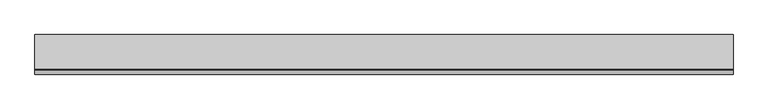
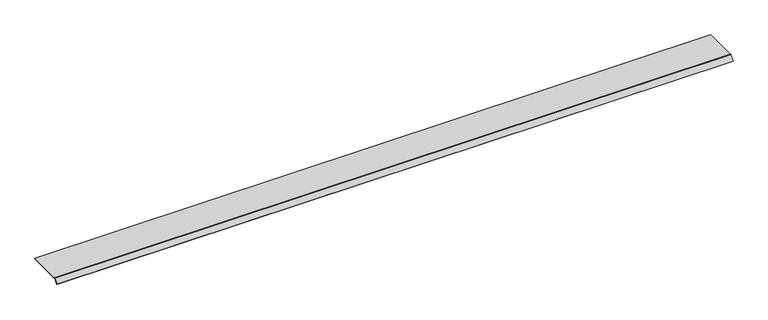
"""IFC4 building model written with IfcOpenShell, lengths in millimetres: proxy geometry, Electrical_Installation_Hager_Blank-Cover-800mm-Double-Sided-Extended-100-Height-40mm : Electrical_Installation_Hager_Blank-Cover-800mm-Double-Sided-Extended-100-Height-40mm."""

from ifc_helpers import new_model, si_unit, point, frame, frame_2d, origin, place, context, project, spatial, polyline, circle_curve, trimmed, segment, composite_curve, outline, extrude, source, transform, mapped, element, save


def electrical_fixtures_b801d70f(model_context):
    return source(origin(), model_context, "Body", "SweptSolid", [
        extrude(outline(composite_curve([segment(polyline([(201.470165, 25.5), (201.470165, 22.5), (-99.8229541, 22.5)]), True, "CONTINUOUS"), segment(trimmed(circle_curve(frame_2d((-99.8229541, 21.0725733)), 1.4274267), [point((-99.8229541, 22.5))], [point((-100.8322972, 22.0819164))], True, "CARTESIAN"), True, "CONTINUOUS"), segment(polyline([(-100.8322972, 22.0819164), (-137.91729, -15.0030764), (-140.0386103, -12.8817561), (-102.8206472, 24.336207)]), True, "CONTINUOUS"), segment(trimmed(circle_curve(frame_2d((-100.0110025, 21.5265623)), 3.9734377), [point((-102.8206472, 24.336207))], [point((-100.0110025, 25.5))], False, "CARTESIAN"), True, "CONTINUOUS"), segment(polyline([(-100.0110025, 25.5), (201.470165, 25.5)]), True, "CONTINUOUS")], self_intersect=False)), frame((0.0, 0.0, 0.0), z_axis=(1.0, 0.0, 0.0), x_axis=(0.0, 1.0, 0.0)), (0.0, 0.0, 1.0), 6011.6956759),
    ])


if __name__ == "__main__":
    model = new_model("IFC4")
    model_context = context("Model", 3, world=origin())
    ifc_project = project(units=[si_unit("LENGTHUNIT", "METRE", prefix="MILLI")], contexts=[model_context])
    site = spatial("IfcSite", under=ifc_project)
    building = spatial("IfcBuilding", under=site)
    placement = place(None, origin())
    electrical_fixtures_shape = electrical_fixtures_b801d70f(model_context)
    element("IfcBuildingElementProxy", 1, Name="Electrical_Installation_Hager_Blank-Cover-800mm-Double-Sided-Extended-100-Height-40mm : Electrical_Installation_Hager_Blank-Cover-800mm-Double-Sided-Extended-100-Height-40mm", ObjectType="Electrical_Installation_Hager_Blank-Cover-800mm-Double-Sided-Extended-100-Height-40mm : Electrical_Installation_Hager_Blank-Cover-800mm-Double-Sided-Extended-100-Height-40mm", at=placement, inside=building, context=model_context, shape_type="MappedRepresentation", body=[
        mapped(electrical_fixtures_shape, transform((0.0, 0.0, 0.0), x_axis=(1.0, 0.0, 0.0), y_axis=(0.0, 1.0, 0.0), z_axis=(0.0, 0.0, 1.0))),
    ])
    save(model, "model.ifc")
